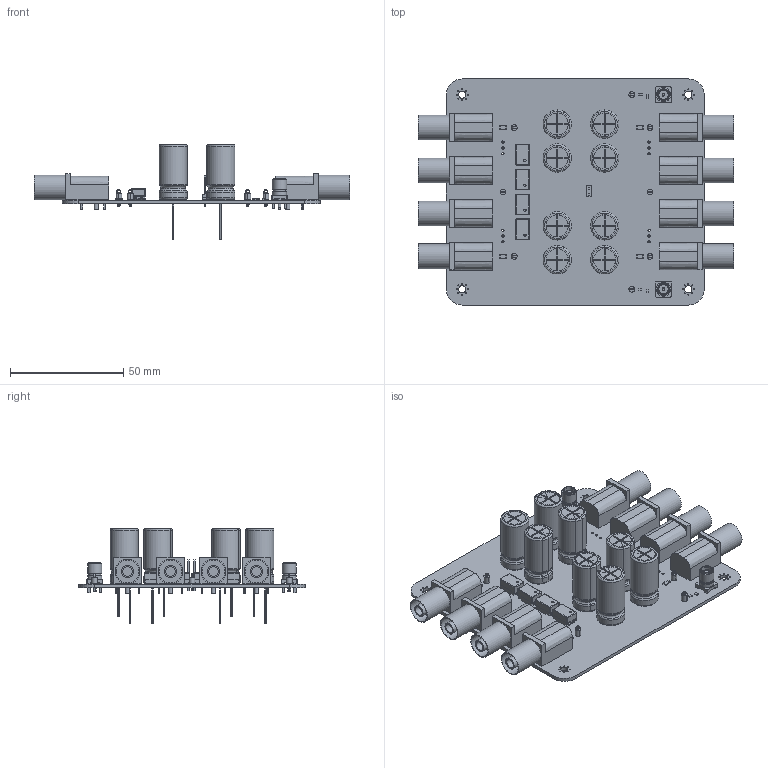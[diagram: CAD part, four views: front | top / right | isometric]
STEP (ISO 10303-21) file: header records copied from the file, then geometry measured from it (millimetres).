
FILE_DESCRIPTION(('KiCad electronic assembly'),'2;1');
FILE_NAME('AMODO_PSRR_INJECTOR_CBs_1_v1.0.0.step','2026-03-31T09:01:15', ('Pcbnew'),('Kicad'),'Open CASCADE STEP processor 7.8', 'KiCad to STEP converter','Unknown');
FILE_SCHEMA(('AUTOMOTIVE_DESIGN { 1 0 10303 214 1 1 1 1 }'));
Length unit declared in the file: millimetre
Products named in the file (13): AMODO_PSRR_INJECTOR_CBs_1_v1.0.0 3; S16N-PC-RED; ECA1HM102; 744224; SMA-J-P-H-ST-TH1; S16N-PC-YELLOW; R_1206_3216Metric; R_0603_1608Metric; keystone-PN5002; S16N-PC-BLACK; c-5-146252-1-d-3d; AMODO_PSRR_INJECTOR_CBs_1_PCB
Assembly tree (41 placements, depth 3):
  AMODO_PSRR_INJECTOR_CBs_1_v1.0.0 3
    S16N-PC-RED  x2
    ECA1HM102  x8
    744224  x4
    SMA-J-P-H-ST-TH1  x2
      SMA-J-P-H-ST-TH1
    S16N-PC-YELLOW  x2
    R_1206_3216Metric  x4
    R_0603_1608Metric  x4
    keystone-PN5002  x8
    S16N-PC-BLACK  x4
    c-5-146252-1-d-3d
    AMODO_PSRR_INJECTOR_CBs_1_PCB
Bounding box: 139.65 x 100 x 42 mm (x, y, z)
Volume: 63146 mm3; surface area: 63483.7 mm2
Topology: 124 solids, 124 shells, 2368 faces, 5886 edges, 3796 vertices
Faces by surface type: plane 1474, cylinder 714, torus 144, bspline 16, sphere 16, cone 4
Full cylindrical faces by diameter (mm): 0.45 x32, 1 x24, 1.016 x14, 1.27 x4, 1.5 x32, 1.6 x10, 2 x8, 2.2 x8, 3.2 x4, 4.1 x12, 4.63 x2, 5.3 x8, 5.35 x4, 6.3 x2, 6.33 x2, 10.2 x8, 11 x8
Entity records: 23355 total; most frequent: CARTESIAN_POINT 3951, DIRECTION 3730, ORIENTED_EDGE 3466, EDGE_CURVE 1733, AXIS2_PLACEMENT_3D 1299, LINE 1132, VECTOR 1132, VERTEX_POINT 1126
